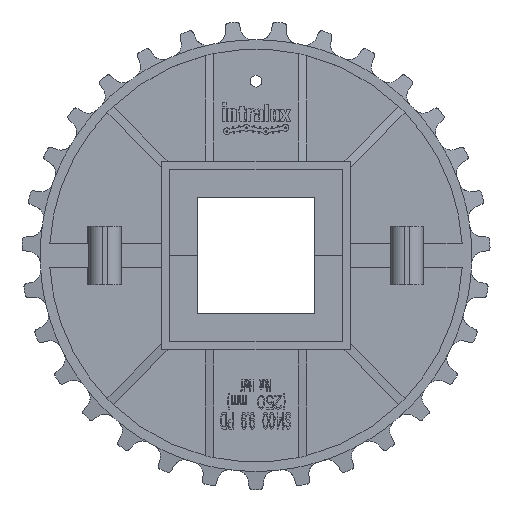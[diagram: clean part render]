
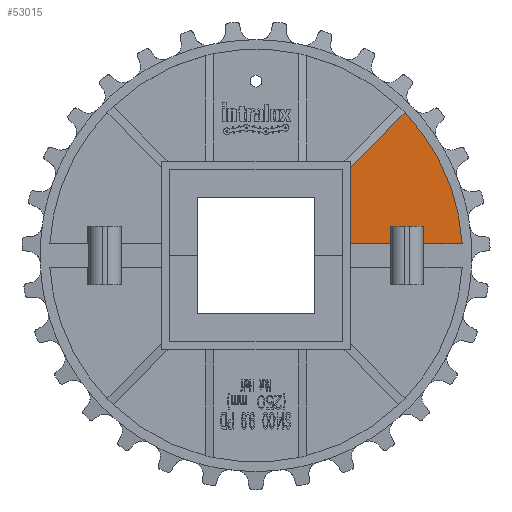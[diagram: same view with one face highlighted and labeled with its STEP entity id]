
A CAD part, top view. The second image highlights one B-rep face of the part: STEP entity #53015.
In plain terms, the highlighted planar face has unit normal (0, 0, 1).
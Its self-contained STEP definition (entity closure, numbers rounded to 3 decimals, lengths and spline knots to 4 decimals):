
#12533=DIRECTION('',(0.,1.,0.));
#12534=VECTOR('',#12533,1.6424);
#12535=CARTESIAN_POINT('',(2.025,0.25,0.0625));
#12536=LINE('',#12535,#12534);
#12537=DIRECTION('',(0.707,0.707,0.));
#12538=VECTOR('',#12537,1.67);
#12539=CARTESIAN_POINT('',(2.025,1.8924,0.0625));
#12540=LINE('',#12539,#12538);
#12541=DIRECTION('',(1.,0.,0.));
#12542=VECTOR('',#12541,2.409);
#12543=CARTESIAN_POINT('',(2.025,0.25,0.0625));
#12544=LINE('',#12543,#12542);
#16566=CARTESIAN_POINT('',(0.,0.,0.0625));
#16567=DIRECTION('',(0.,0.,1.));
#16568=DIRECTION('',(0.998,0.056,0.));
#16569=AXIS2_PLACEMENT_3D('',#16566,#16567,#16568);
#35977=CARTESIAN_POINT('',(3.2059,3.0733,0.0625));
#35979=VERTEX_POINT('',#35977);
#36053=CARTESIAN_POINT('',(2.025,0.25,0.0625));
#36054=CARTESIAN_POINT('',(2.025,1.8924,0.0625));
#36055=VERTEX_POINT('',#36053);
#36056=VERTEX_POINT('',#36054);
#36067=CARTESIAN_POINT('',(4.434,0.25,0.0625));
#36068=VERTEX_POINT('',#36067);
#53001=CARTESIAN_POINT('',(0.,0.,0.0625));
#53002=DIRECTION('',(0.,0.,-1.));
#53003=DIRECTION('',(-1.,0.,0.));
#53004=AXIS2_PLACEMENT_3D('',#53001,#53002,#53003);
#53005=PLANE('',#53004);
#53006=ORIENTED_EDGE('',*,*,#50244,.T.);
#53008=ORIENTED_EDGE('',*,*,#53007,.T.);
#53010=ORIENTED_EDGE('',*,*,#53009,.F.);
#53012=ORIENTED_EDGE('',*,*,#53011,.F.);
#53013=EDGE_LOOP('',(#53006,#53008,#53010,#53012));
#53014=FACE_OUTER_BOUND('',#53013,.F.);
#53015=ADVANCED_FACE('',(#53014),#53005,.F.);
#16570=CIRCLE('',#16569,4.4411);
#50244=EDGE_CURVE('',#36055,#36056,#12536,.T.);
#53007=EDGE_CURVE('',#36056,#35979,#12540,.T.);
#53009=EDGE_CURVE('',#36068,#35979,#16570,.T.);
#53011=EDGE_CURVE('',#36055,#36068,#12544,.T.);
